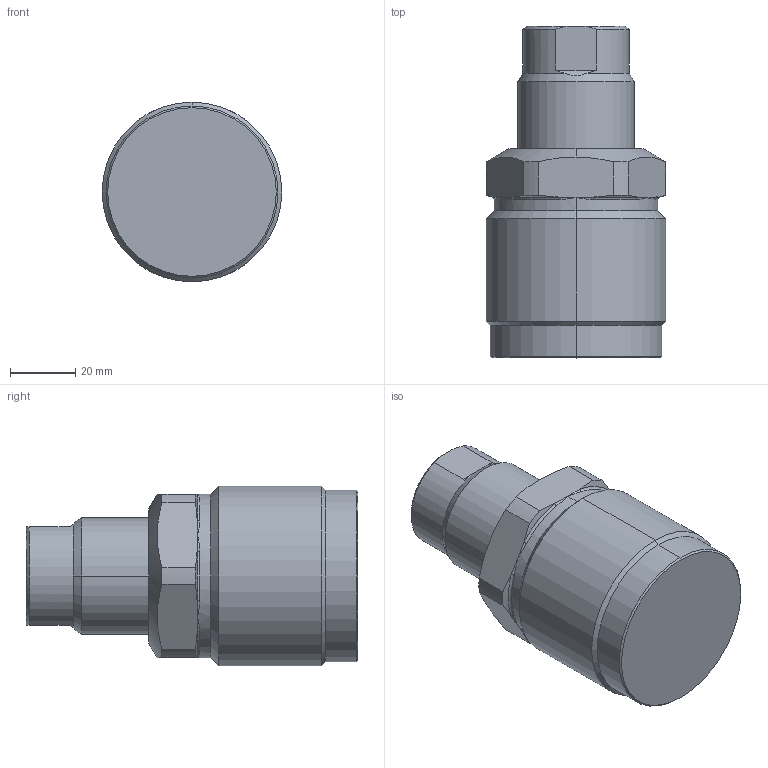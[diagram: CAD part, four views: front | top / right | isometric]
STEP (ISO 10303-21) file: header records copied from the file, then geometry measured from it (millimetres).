
FILE_DESCRIPTION((' '),'2;1');
FILE_NAME( 'TGM25-20.x_t.stp', '2024-08-27T13:43:52', (' '), ('--- Datakit www.datakit.com---'), ' Datakit CrossCadWare V2024.1 Dec 21 2023', 'Mastercam 2025', ' ');
FILE_SCHEMA(('AUTOMOTIVE_DESIGN { 1 0 10303 214 1 1 1 1 }'));
Length unit declared in the file: millimetre
Products named in the file (1): TGM25-20
Bounding box: 55 x 101.5 x 55 mm (x, y, z)
Volume: 154768.7 mm3; surface area: 23928.8 mm2
Topology: 2 solids, 2 shells, 79 faces, 194 edges, 109 vertices
Faces by surface type: cylinder 22, cone 22, plane 17, bspline 12, torus 6
Entity records: 4291 total; most frequent: CARTESIAN_POINT 2549, ORIENTED_EDGE 360, DIRECTION 352, EDGE_CURVE 180, AXIS2_PLACEMENT_3D 152, VERTEX_POINT 109, EDGE_LOOP 83, FACE_OUTER_BOUND 79
